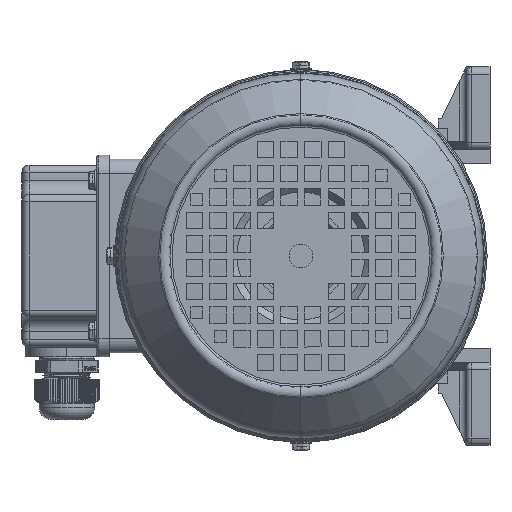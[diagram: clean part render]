
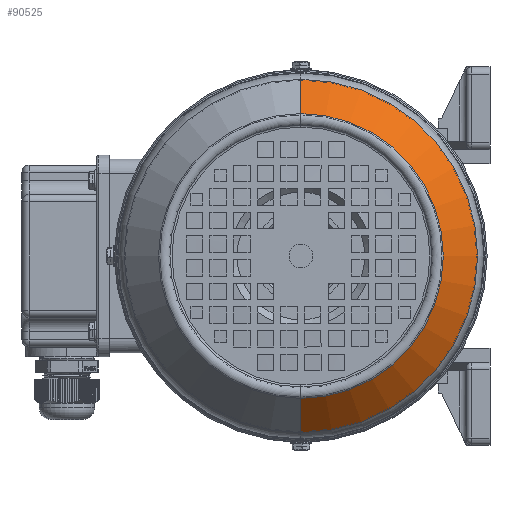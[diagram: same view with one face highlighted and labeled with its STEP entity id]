
A CAD part, left-side view. The second image highlights one B-rep face of the part: STEP entity #90525.
In plain terms, the highlighted conical face has half-angle 41.927 degrees and reference radius 77.3 mm.
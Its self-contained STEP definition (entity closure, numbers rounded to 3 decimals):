
#651 = VERTEX_POINT ( 'NONE', #32524 ) ;
#4235 = DIRECTION ( 'NONE',  ( 0., 0., -1. ) ) ;
#10281 = EDGE_CURVE ( 'NONE', #69409, #651, #41572, .T. ) ;
#10476 = ORIENTED_EDGE ( 'NONE', *, *, #10281, .F. ) ;
#17128 = CARTESIAN_POINT ( 'NONE',  ( -75.005, 0., 0. ) ) ;
#29393 = EDGE_LOOP ( 'NONE', ( #10476, #74550, #34033, #65711 ) ) ;
#29773 = DIRECTION ( 'NONE',  ( 1., 0., 0. ) ) ;
#30924 = DIRECTION ( 'NONE',  ( -1., 0., 0. ) ) ;
#32524 = CARTESIAN_POINT ( 'NONE',  ( -58.851, 0., 74.74 ) ) ;
#34033 = ORIENTED_EDGE ( 'NONE', *, *, #77932, .T. ) ;
#41572 = LINE ( 'NONE', #85540, #76831 ) ;
#41681 = EDGE_CURVE ( 'NONE', #64974, #651, #88712, .T. ) ;
#43065 = DIRECTION ( 'NONE',  ( -1., 0., 0. ) ) ;
#46214 = AXIS2_PLACEMENT_3D ( 'NONE', #91321, #30924, #56043 ) ;
#51743 = DIRECTION ( 'NONE',  ( 0., 0., 1. ) ) ;
#56043 = DIRECTION ( 'NONE',  ( 0., 0., 1. ) ) ;
#56379 = CARTESIAN_POINT ( 'NONE',  ( -56., 0., 0. ) ) ;
#64974 = VERTEX_POINT ( 'NONE', #75680 ) ;
#65711 = ORIENTED_EDGE ( 'NONE', *, *, #41681, .T. ) ;
#68564 = CARTESIAN_POINT ( 'NONE',  ( -75.005, 0., 60.232 ) ) ;
#68972 = CIRCLE ( 'NONE', #91326, 60.232 ) ;
#69409 = VERTEX_POINT ( 'NONE', #68564 ) ;
#72016 = CARTESIAN_POINT ( 'NONE',  ( -75.005, 0., -60.232 ) ) ;
#72753 = CARTESIAN_POINT ( 'NONE',  ( -56., 0., -77.3 ) ) ;
#74550 = ORIENTED_EDGE ( 'NONE', *, *, #84356, .F. ) ;
#74961 = VECTOR ( 'NONE', #106956, 1000. ) ;
#75680 = CARTESIAN_POINT ( 'NONE',  ( -58.851, 0., -74.74 ) ) ;
#76831 = VECTOR ( 'NONE', #111410, 1000. ) ;
#77914 = VERTEX_POINT ( 'NONE', #72016 ) ;
#77932 = EDGE_CURVE ( 'NONE', #77914, #64974, #111710, .T. ) ;
#84356 = EDGE_CURVE ( 'NONE', #77914, #69409, #68972, .T. ) ;
#85540 = CARTESIAN_POINT ( 'NONE',  ( -56., 0., 77.3 ) ) ;
#88712 = CIRCLE ( 'NONE', #46214, 74.74 ) ;
#90525 = ADVANCED_FACE ( 'NONE', ( #94550 ), #105417, .T. ) ;
#91321 = CARTESIAN_POINT ( 'NONE',  ( -58.851, 0., 0. ) ) ;
#91326 = AXIS2_PLACEMENT_3D ( 'NONE', #17128, #43065, #51743 ) ;
#94550 = FACE_OUTER_BOUND ( 'NONE', #29393, .T. ) ;
#105417 = CONICAL_SURFACE ( 'NONE', #111161, 77.3, 0.732 ) ;
#106956 = DIRECTION ( 'NONE',  ( 0.744, 0., -0.668 ) ) ;
#111161 = AXIS2_PLACEMENT_3D ( 'NONE', #56379, #29773, #4235 ) ;
#111410 = DIRECTION ( 'NONE',  ( 0.744, 0., 0.668 ) ) ;
#111710 = LINE ( 'NONE', #72753, #74961 ) ;
